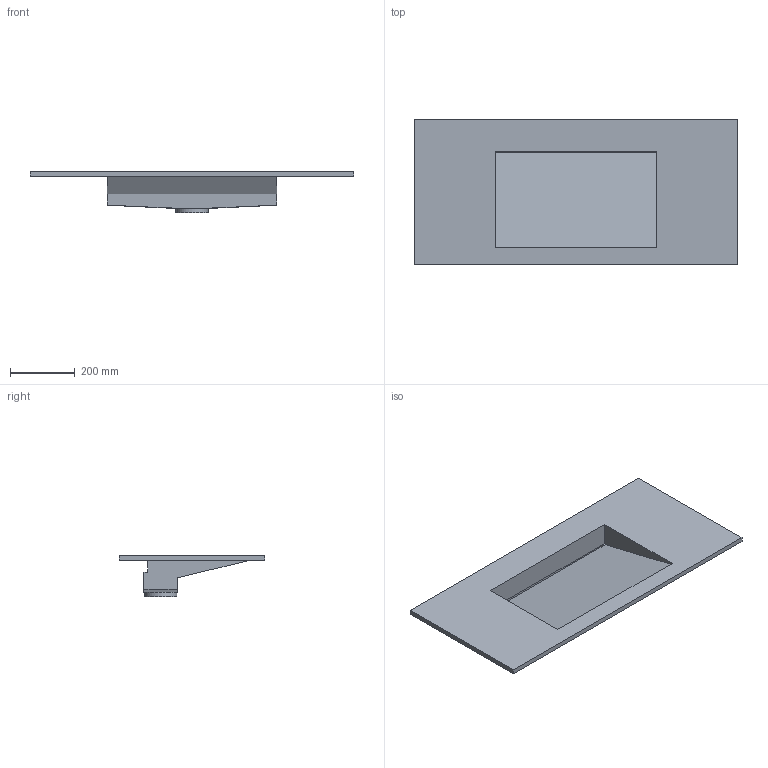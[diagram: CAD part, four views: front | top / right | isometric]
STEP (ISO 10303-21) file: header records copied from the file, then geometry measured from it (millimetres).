
FILE_DESCRIPTION(/* description */ (''),/* implementation_level */ '2;1');
FILE_NAME(/* name */ 'Cabinet Basin 1000.stp',/* time_stamp */ '2025-10-25T10:48:03+08:00',/* author */ (''),/* organization */ (''),/* preprocessor_version */ 'ST-DEVELOPER v20',/* originating_system */ 'SIEMENS PLM Software NX2412.4001',/* authorisation */ '');
FILE_SCHEMA (('AUTOMOTIVE_DESIGN { 1 0 10303 214 3 1 1 1 }'));
Length unit declared in the file: millimetre
Products named in the file (1): Cabinet Basin 1000
Bounding box: 1000 x 450 x 127 mm (x, y, z)
Volume: 7617135 mm3; surface area: 1250781.2 mm2
Topology: 1 solids, 1 shells, 48 faces, 126 edges, 81 vertices
Faces by surface type: plane 43, cone 3, cylinder 2
Full cylindrical faces by diameter (mm): 45 x1, 100 x1
Entity records: 1476 total; most frequent: CARTESIAN_POINT 311, ORIENTED_EDGE 238, DIRECTION 214, EDGE_CURVE 119, LINE 106, VECTOR 106, VERTEX_POINT 79, EDGE_LOOP 56
